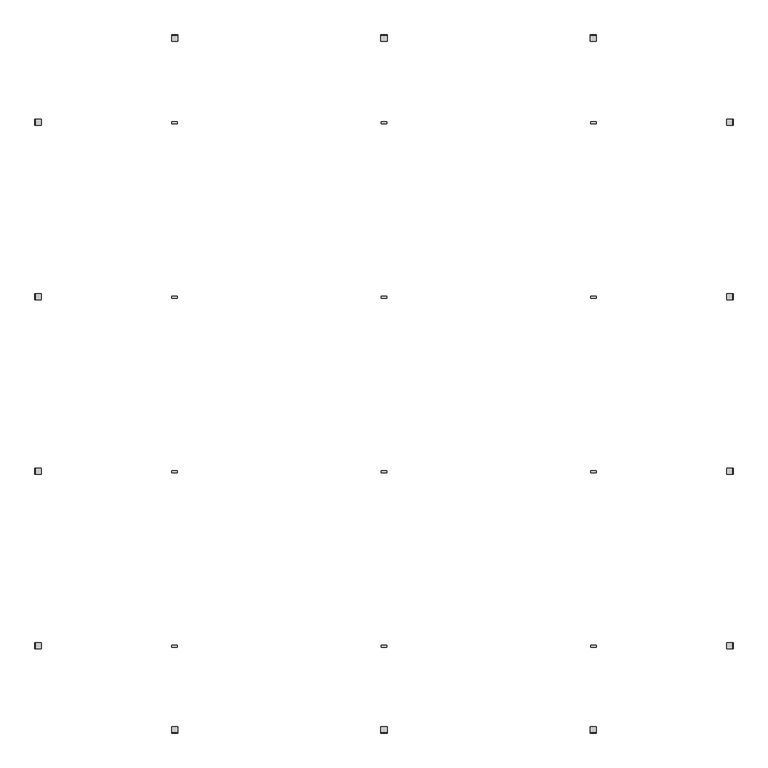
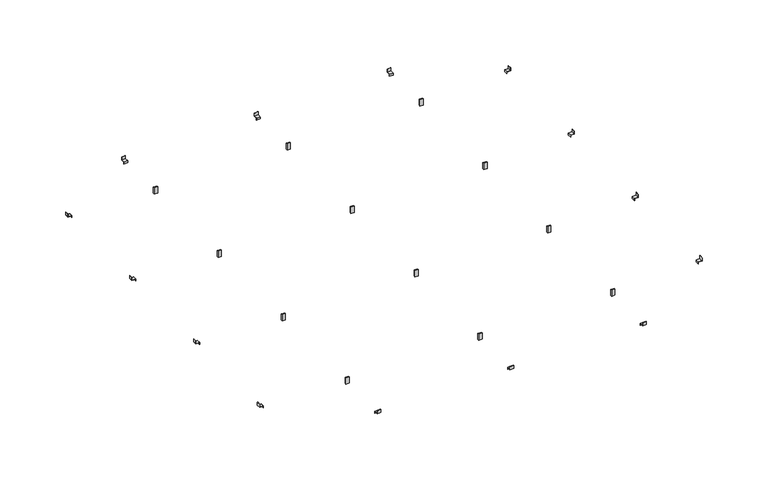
"""IFC4 building model written with IfcOpenShell, lengths in millimetres: proxy geometry, durlum_S1_RHOMBOS : durlum_S1_RHOMBOS."""

from ifc_helpers import new_model, si_unit, frame, origin, place, context, project, spatial, polyline, outline, extrude, source, transform, mapped, element, save


def generic_models_9e26d455(model_context):
    return source(origin(), model_context, "Body", "SweptSolid", [
        extrude(outline(polyline([(15.0, -496.3746387), (15.0, -508.4811477), (-15.0, -508.4811477), (-15.0, -496.3746387), (15.0, -496.3746387)])), frame((0.0, 0.0, 3736.0885637), z_axis=(0.0, 0.0, 1.0), x_axis=(1.0, 0.0, 0.0)), (0.0, 0.0, 1.0), 59.2290353),
        extrude(outline(polyline([(1215.0, -496.3746387), (1215.0, -508.4811477), (1185.0, -508.4811477), (1185.0, -496.3746387), (1215.0, -496.3746387)])), frame((0.0, 0.0, 3736.3145176), z_axis=(0.0, 0.0, 1.0), x_axis=(1.0, 0.0, 0.0)), (0.0, 0.0, 1.0), 59.2290353),
        extrude(outline(polyline([(-1185.0, -496.3746387), (-1185.0, -508.4811477), (-1215.0, -508.4811477), (-1215.0, -496.3746387), (-1185.0, -496.3746387)])), frame((0.0, 0.0, 3735.8626098), z_axis=(0.0, 0.0, 1.0), x_axis=(1.0, 0.0, 0.0)), (0.0, 0.0, 1.0), 59.2290353),
        extrude(outline(polyline([(3794.5, 2000.0), (3823.5, 2000.0), (3823.5, 1999.0), (3795.5, 1999.0), (3795.5, 1965.0), (3776.5, 1965.0), (3776.5, 1966.0), (3794.5, 1966.0), (3794.5, 2000.0)])), frame((0.0, -517.3199473, 0.0), z_axis=(0.0, 1.0, 0.0), x_axis=(0.0, 0.0, 1.0)), (0.0, 0.0, 1.0), 34.6398947),
        extrude(outline(polyline([(3794.5, -2000.0), (3794.5, -1966.0), (3776.5, -1966.0), (3776.5, -1965.0), (3795.5, -1965.0), (3795.5, -1999.0), (3823.5, -1999.0), (3823.5, -2000.0), (3794.5, -2000.0)])), frame((0.0, -517.3199473, 0.0), z_axis=(0.0, 1.0, 0.0), x_axis=(0.0, 0.0, 1.0)), (0.0, 0.0, 1.0), 34.6398947),
        extrude(outline(polyline([(2000.0, 3753.5), (1966.0, 3753.5), (1966.0, 3735.5), (1965.0, 3735.5), (1965.0, 3754.5), (1999.0, 3754.5), (1999.0, 3782.5), (2000.0, 3782.5), (2000.0, 3753.5)])), frame((-17.3199473, 0.0, 0.0), z_axis=(1.0, 0.0, 0.0), x_axis=(0.0, 1.0, 0.0)), (0.0, 0.0, 1.0), 34.6398947),
        extrude(outline(polyline([(-2000.0, 3753.5), (-2000.0, 3782.5), (-1999.0, 3782.5), (-1999.0, 3754.5), (-1965.0, 3754.5), (-1965.0, 3735.5), (-1966.0, 3735.5), (-1966.0, 3753.5), (-2000.0, 3753.5)])), frame((-17.3199473, 0.0, 0.0), z_axis=(1.0, 0.0, 0.0), x_axis=(0.0, 1.0, 0.0)), (0.0, 0.0, 1.0), 34.6398947),
        extrude(outline(polyline([(-2000.0, 3753.5), (-2000.0, 3782.5), (-1999.0, 3782.5), (-1999.0, 3754.5), (-1965.0, 3754.5), (-1965.0, 3735.5), (-1966.0, 3735.5), (-1966.0, 3753.5), (-2000.0, 3753.5)])), frame((-1217.3199473, 0.0, 0.0), z_axis=(1.0, 0.0, 0.0), x_axis=(0.0, 1.0, 0.0)), (0.0, 0.0, 1.0), 34.6398947),
        extrude(outline(polyline([(2000.0, 3753.5), (1966.0, 3753.5), (1966.0, 3735.5), (1965.0, 3735.5), (1965.0, 3754.5), (1999.0, 3754.5), (1999.0, 3782.5), (2000.0, 3782.5), (2000.0, 3753.5)])), frame((-1217.3199473, 0.0, 0.0), z_axis=(1.0, 0.0, 0.0), x_axis=(0.0, 1.0, 0.0)), (0.0, 0.0, 1.0), 34.6398947),
        extrude(outline(polyline([(2000.0, 3753.5), (1966.0, 3753.5), (1966.0, 3735.5), (1965.0, 3735.5), (1965.0, 3754.5), (1999.0, 3754.5), (1999.0, 3782.5), (2000.0, 3782.5), (2000.0, 3753.5)])), frame((1182.6800527, 0.0, 0.0), z_axis=(1.0, 0.0, 0.0), x_axis=(0.0, 1.0, 0.0)), (0.0, 0.0, 1.0), 34.6398947),
        extrude(outline(polyline([(-2000.0, 3753.5), (-2000.0, 3782.5), (-1999.0, 3782.5), (-1999.0, 3754.5), (-1965.0, 3754.5), (-1965.0, 3735.5), (-1966.0, 3735.5), (-1966.0, 3753.5), (-2000.0, 3753.5)])), frame((1182.6800527, 0.0, 0.0), z_axis=(1.0, 0.0, 0.0), x_axis=(0.0, 1.0, 0.0)), (0.0, 0.0, 1.0), 34.6398947),
        extrude(outline(polyline([(15.0, 503.6253613), (15.0, 491.5188523), (-15.0, 491.5188523), (-15.0, 503.6253613), (15.0, 503.6253613)])), frame((0.0, 0.0, 3736.0885637), z_axis=(0.0, 0.0, 1.0), x_axis=(1.0, 0.0, 0.0)), (0.0, 0.0, 1.0), 59.2290353),
        extrude(outline(polyline([(1215.0, 503.6253613), (1215.0, 491.5188523), (1185.0, 491.5188523), (1185.0, 503.6253613), (1215.0, 503.6253613)])), frame((0.0, 0.0, 3736.3145176), z_axis=(0.0, 0.0, 1.0), x_axis=(1.0, 0.0, 0.0)), (0.0, 0.0, 1.0), 59.2290353),
        extrude(outline(polyline([(-1185.0, 503.6253613), (-1185.0, 491.5188523), (-1215.0, 491.5188523), (-1215.0, 503.6253613), (-1185.0, 503.6253613)])), frame((0.0, 0.0, 3735.8626098), z_axis=(0.0, 0.0, 1.0), x_axis=(1.0, 0.0, 0.0)), (0.0, 0.0, 1.0), 59.2290353),
        extrude(outline(polyline([(3794.5, 2000.0), (3823.5, 2000.0), (3823.5, 1999.0), (3795.5, 1999.0), (3795.5, 1965.0), (3776.5, 1965.0), (3776.5, 1966.0), (3794.5, 1966.0), (3794.5, 2000.0)])), frame((0.0, 482.6800527, 0.0), z_axis=(0.0, 1.0, 0.0), x_axis=(0.0, 0.0, 1.0)), (0.0, 0.0, 1.0), 34.6398947),
        extrude(outline(polyline([(3794.5, -2000.0), (3794.5, -1966.0), (3776.5, -1966.0), (3776.5, -1965.0), (3795.5, -1965.0), (3795.5, -1999.0), (3823.5, -1999.0), (3823.5, -2000.0), (3794.5, -2000.0)])), frame((0.0, 482.6800527, 0.0), z_axis=(0.0, 1.0, 0.0), x_axis=(0.0, 0.0, 1.0)), (0.0, 0.0, 1.0), 34.6398947),
        extrude(outline(polyline([(15.0, -1496.3746387), (15.0, -1508.4811477), (-15.0, -1508.4811477), (-15.0, -1496.3746387), (15.0, -1496.3746387)])), frame((0.0, 0.0, 3736.0885637), z_axis=(0.0, 0.0, 1.0), x_axis=(1.0, 0.0, 0.0)), (0.0, 0.0, 1.0), 59.2290353),
        extrude(outline(polyline([(1215.0, -1496.3746387), (1215.0, -1508.4811477), (1185.0, -1508.4811477), (1185.0, -1496.3746387), (1215.0, -1496.3746387)])), frame((0.0, 0.0, 3736.3145176), z_axis=(0.0, 0.0, 1.0), x_axis=(1.0, 0.0, 0.0)), (0.0, 0.0, 1.0), 59.2290353),
        extrude(outline(polyline([(-1185.0, -1496.3746387), (-1185.0, -1508.4811477), (-1215.0, -1508.4811477), (-1215.0, -1496.3746387), (-1185.0, -1496.3746387)])), frame((0.0, 0.0, 3735.8626098), z_axis=(0.0, 0.0, 1.0), x_axis=(1.0, 0.0, 0.0)), (0.0, 0.0, 1.0), 59.2290353),
        extrude(outline(polyline([(3794.5, 2000.0), (3823.5, 2000.0), (3823.5, 1999.0), (3795.5, 1999.0), (3795.5, 1965.0), (3776.5, 1965.0), (3776.5, 1966.0), (3794.5, 1966.0), (3794.5, 2000.0)])), frame((0.0, -1517.3199473, 0.0), z_axis=(0.0, 1.0, 0.0), x_axis=(0.0, 0.0, 1.0)), (0.0, 0.0, 1.0), 34.6398947),
        extrude(outline(polyline([(3794.5, -2000.0), (3794.5, -1966.0), (3776.5, -1966.0), (3776.5, -1965.0), (3795.5, -1965.0), (3795.5, -1999.0), (3823.5, -1999.0), (3823.5, -2000.0), (3794.5, -2000.0)])), frame((0.0, -1517.3199473, 0.0), z_axis=(0.0, 1.0, 0.0), x_axis=(0.0, 0.0, 1.0)), (0.0, 0.0, 1.0), 34.6398947),
        extrude(outline(polyline([(15.0, 1503.6253613), (15.0, 1491.5188523), (-15.0, 1491.5188523), (-15.0, 1503.6253613), (15.0, 1503.6253613)])), frame((0.0, 0.0, 3736.0885637), z_axis=(0.0, 0.0, 1.0), x_axis=(1.0, 0.0, 0.0)), (0.0, 0.0, 1.0), 59.2290353),
        extrude(outline(polyline([(1215.0, 1503.6253613), (1215.0, 1491.5188523), (1185.0, 1491.5188523), (1185.0, 1503.6253613), (1215.0, 1503.6253613)])), frame((0.0, 0.0, 3736.3145176), z_axis=(0.0, 0.0, 1.0), x_axis=(1.0, 0.0, 0.0)), (0.0, 0.0, 1.0), 59.2290353),
        extrude(outline(polyline([(-1185.0, 1503.6253613), (-1185.0, 1491.5188523), (-1215.0, 1491.5188523), (-1215.0, 1503.6253613), (-1185.0, 1503.6253613)])), frame((0.0, 0.0, 3735.8626098), z_axis=(0.0, 0.0, 1.0), x_axis=(1.0, 0.0, 0.0)), (0.0, 0.0, 1.0), 59.2290353),
        extrude(outline(polyline([(3794.5, 2000.0), (3823.5, 2000.0), (3823.5, 1999.0), (3795.5, 1999.0), (3795.5, 1965.0), (3776.5, 1965.0), (3776.5, 1966.0), (3794.5, 1966.0), (3794.5, 2000.0)])), frame((0.0, 1482.6800527, 0.0), z_axis=(0.0, 1.0, 0.0), x_axis=(0.0, 0.0, 1.0)), (0.0, 0.0, 1.0), 34.6398947),
        extrude(outline(polyline([(3794.5, -2000.0), (3794.5, -1966.0), (3776.5, -1966.0), (3776.5, -1965.0), (3795.5, -1965.0), (3795.5, -1999.0), (3823.5, -1999.0), (3823.5, -2000.0), (3794.5, -2000.0)])), frame((0.0, 1482.6800527, 0.0), z_axis=(0.0, 1.0, 0.0), x_axis=(0.0, 0.0, 1.0)), (0.0, 0.0, 1.0), 34.6398947),
    ])


if __name__ == "__main__":
    model = new_model("IFC4")
    model_context = context("Model", 3, world=origin())
    ifc_project = project(units=[si_unit("LENGTHUNIT", "METRE", prefix="MILLI")], contexts=[model_context])
    site = spatial("IfcSite", under=ifc_project)
    building = spatial("IfcBuilding", under=site)
    placement = place(None, origin())
    generic_models_shape = generic_models_9e26d455(model_context)
    element("IfcBuildingElementProxy", 1, Name="durlum_S1_RHOMBOS : durlum_S1_RHOMBOS", ObjectType="durlum_S1_RHOMBOS : durlum_S1_RHOMBOS", at=placement, inside=building, context=model_context, shape_type="MappedRepresentation", body=[
        mapped(generic_models_shape, transform((0.0, 0.0, 0.0), x_axis=(1.0, 0.0, 0.0), y_axis=(0.0, 1.0, 0.0), z_axis=(0.0, 0.0, 1.0))),
    ])
    save(model, "model.ifc")
